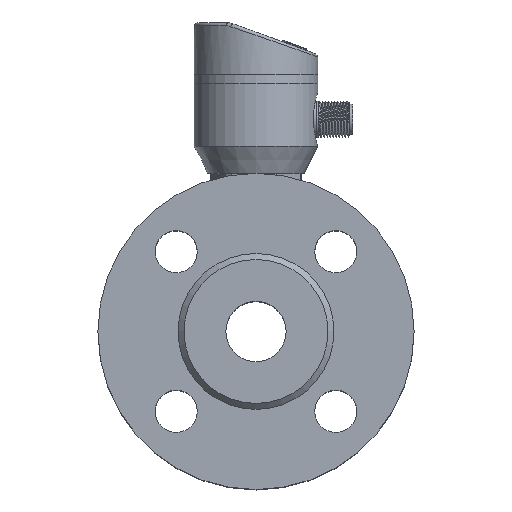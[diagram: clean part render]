
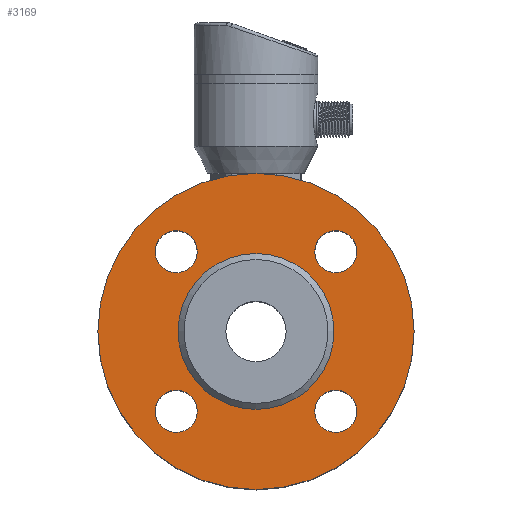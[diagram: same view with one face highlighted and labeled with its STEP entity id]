
A CAD part, top view. The second image highlights one B-rep face of the part: STEP entity #3169.
In plain terms, the highlighted planar face has unit normal (0, 0, 1).
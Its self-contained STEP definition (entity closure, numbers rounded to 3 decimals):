
#1699=PLANE('',#8465);
#3169=ADVANCED_FACE('',(#3754,#3755,#3756,#3757,#3758,#3759),#1699,.T.);
#3754=FACE_BOUND('',#3986,.T.);
#3755=FACE_BOUND('',#3987,.T.);
#3756=FACE_BOUND('',#3988,.T.);
#3757=FACE_BOUND('',#3989,.T.);
#3758=FACE_BOUND('',#3990,.T.);
#3759=FACE_BOUND('',#3991,.T.);
#3986=EDGE_LOOP('',(#4608));
#3987=EDGE_LOOP('',(#4609));
#3988=EDGE_LOOP('',(#4610));
#3989=EDGE_LOOP('',(#4611));
#3990=EDGE_LOOP('',(#4612));
#3991=EDGE_LOOP('',(#4613));
#4608=ORIENTED_EDGE('',*,*,#7067,.T.);
#4609=ORIENTED_EDGE('',*,*,#7071,.T.);
#4610=ORIENTED_EDGE('',*,*,#7075,.T.);
#4611=ORIENTED_EDGE('',*,*,#7126,.T.);
#4612=ORIENTED_EDGE('',*,*,#7124,.F.);
#4613=ORIENTED_EDGE('',*,*,#7127,.T.);
#6429=VERTEX_POINT('',#11145);
#6433=VERTEX_POINT('',#11155);
#6437=VERTEX_POINT('',#11165);
#6472=VERTEX_POINT('',#12490);
#6474=VERTEX_POINT('',#12496);
#6475=VERTEX_POINT('',#12498);
#7067=EDGE_CURVE('',#6429,#6429,#8030,.T.);
#7071=EDGE_CURVE('',#6433,#6433,#8034,.T.);
#7075=EDGE_CURVE('',#6437,#6437,#8038,.T.);
#7124=EDGE_CURVE('',#6472,#6472,#8055,.T.);
#7126=EDGE_CURVE('',#6474,#6474,#8057,.T.);
#7127=EDGE_CURVE('',#6475,#6475,#8058,.T.);
#8030=CIRCLE('',#8413,7.);
#8034=CIRCLE('',#8419,7.);
#8038=CIRCLE('',#8425,7.);
#8055=CIRCLE('',#8459,52.5);
#8057=CIRCLE('',#8463,7.);
#8058=CIRCLE('',#8464,25.892);
#8413=AXIS2_PLACEMENT_3D('',#11144,#9199,#9200);
#8419=AXIS2_PLACEMENT_3D('',#11154,#9211,#9212);
#8425=AXIS2_PLACEMENT_3D('',#11164,#9223,#9224);
#8459=AXIS2_PLACEMENT_3D('',#12489,#9302,#9303);
#8463=AXIS2_PLACEMENT_3D('',#12495,#9310,#9311);
#8464=AXIS2_PLACEMENT_3D('',#12497,#9312,#9313);
#8465=AXIS2_PLACEMENT_3D('',#12499,#9314,#9315);
#9199=DIRECTION('',(0.,0.,-1.));
#9200=DIRECTION('',(-0.707,0.707,0.));
#9211=DIRECTION('',(0.,0.,-1.));
#9212=DIRECTION('',(0.707,0.707,0.));
#9223=DIRECTION('',(0.,0.,-1.));
#9224=DIRECTION('',(0.707,-0.707,0.));
#9302=DIRECTION('',(0.,0.,-1.));
#9303=DIRECTION('',(1.,0.,0.));
#9310=DIRECTION('',(0.,0.,-1.));
#9311=DIRECTION('',(-0.707,-0.707,0.));
#9312=DIRECTION('',(0.,0.,-1.));
#9313=DIRECTION('',(1.,0.,0.));
#9314=DIRECTION('',(0.,0.,1.));
#9315=DIRECTION('',(-1.,0.,0.));
#11144=CARTESIAN_POINT('',(26.517,-26.517,15.));
#11145=CARTESIAN_POINT('',(21.567,-21.567,15.));
#11154=CARTESIAN_POINT('',(-26.517,-26.517,15.));
#11155=CARTESIAN_POINT('',(-21.567,-21.567,15.));
#11164=CARTESIAN_POINT('',(-26.517,26.517,15.));
#11165=CARTESIAN_POINT('',(-21.567,21.567,15.));
#12489=CARTESIAN_POINT('',(0.,0.,15.));
#12490=CARTESIAN_POINT('',(52.5,0.,15.));
#12495=CARTESIAN_POINT('',(26.517,26.517,15.));
#12496=CARTESIAN_POINT('',(21.567,21.567,15.));
#12497=CARTESIAN_POINT('',(0.,0.,15.));
#12498=CARTESIAN_POINT('',(25.892,0.,15.));
#12499=CARTESIAN_POINT('',(0.,0.,15.));
